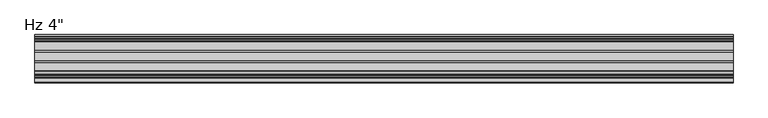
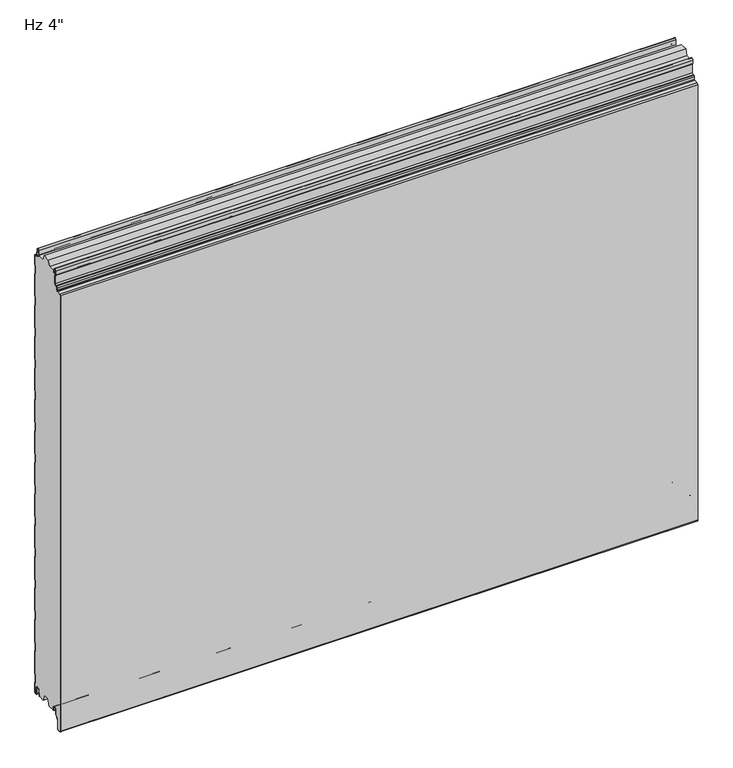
"""IFC4 building model written with IfcOpenShell, lengths in millimetres: plate geometry."""

from ifc_helpers import new_model, si_unit, point, frame, frame_2d, origin, place, context, project, spatial, polyline, circle_curve, trimmed, segment, composite_curve, outline, extrude, source, transform, mapped, element, save


def plate_0a17265c(model_context):
    return source(origin(), model_context, "Body", "SweptSolid", [
        extrude(outline(composite_curve([segment(trimmed(circle_curve(frame_2d((-76.8545168, 7.3245305)), 3.3499999), [point((-73.5045169, 7.3245305))], [point((-76.8545168, 10.6745305))], True, "CARTESIAN"), True, "CONTINUOUS"), segment(polyline([(-76.8545168, 10.6745305), (-81.2545166, 10.6745305)]), True, "CONTINUOUS"), segment(trimmed(circle_curve(frame_2d((-81.2545166, 7.3245305)), 3.3499999), [point((-81.2545166, 10.6745305))], [point((-84.6045165, 7.3245305))], True, "CARTESIAN"), True, "CONTINUOUS"), segment(polyline([(-84.6045165, 7.3245305), (-84.6045165, -4.4863817)]), True, "CONTINUOUS"), segment(trimmed(circle_curve(frame_2d((-86.3045165, -4.4863817)), 1.7), [point((-84.6045165, -4.4863817))], [point((-85.102435, -5.6884632))], False, "CARTESIAN"), True, "CONTINUOUS"), segment(polyline([(-85.102435, -5.6884632), (-89.8429939, -10.4290221)]), True, "CONTINUOUS"), segment(trimmed(circle_curve(frame_2d((-88.0045163, -12.2674998)), 2.6), [point((-89.8429939, -10.4290221))], [point((-90.6045163, -12.2674998))], True, "CARTESIAN"), True, "CONTINUOUS"), segment(polyline([(-90.6045163, -12.2674998), (-90.6045163, -33.274257)]), True, "CONTINUOUS"), segment(trimmed(circle_curve(frame_2d((-93.3045163, -33.274257)), 2.7), [point((-90.6045163, -33.274257))], [point((-93.0689835, -35.9639641))], False, "CARTESIAN"), True, "CONTINUOUS"), segment(polyline([(-93.0689835, -35.9639641), (-97.8159721, -36.3796493)]), True, "CONTINUOUS"), segment(trimmed(circle_curve(frame_2d((-98.0393488, -33.8287598)), 2.5606512), [point((-97.8159721, -36.3796493))], [point((-100.6, -33.8287598))], False, "CARTESIAN"), True, "CONTINUOUS"), segment(polyline([(-100.6, -33.8287598), (-100.6, 1021.0519049)]), True, "CONTINUOUS"), segment(trimmed(circle_curve(frame_2d((-98.7102824, 1021.0519049)), 1.8897176), [point((-100.6, 1021.0519049))], [point((-98.8750281, 1022.9344276))], False, "CARTESIAN"), True, "CONTINUOUS"), segment(polyline([(-98.8750281, 1022.9344276), (-90.3438082, 1023.6810226)]), True, "CONTINUOUS"), segment(trimmed(circle_curve(frame_2d((-90.6077531, 1026.6970773)), 3.027582), [point((-90.3438082, 1023.6810226))], [point((-88.7647769, 1024.2950591))], True, "CARTESIAN"), True, "CONTINUOUS"), segment(trimmed(circle_curve(frame_2d((-90.5909631, 1026.6751943)), 3.0), [point((-88.7647769, 1024.2950591))], [point((-87.5909787, 1026.6848525))], True, "CARTESIAN"), True, "CONTINUOUS"), segment(polyline([(-87.5909787, 1026.6848525), (-87.5909787, 1032.044966)]), True, "CONTINUOUS"), segment(trimmed(circle_curve(frame_2d((-85.7909787, 1032.044966)), 1.8), [point((-87.5909787, 1032.044966))], [point((-85.7909787, 1033.844966))], False, "CARTESIAN"), True, "CONTINUOUS"), segment(polyline([(-85.7909787, 1033.844966), (-83.500418, 1033.844966)]), True, "CONTINUOUS"), segment(trimmed(circle_curve(frame_2d((-83.500418, 1037.844966)), 4.0), [point((-83.500418, 1033.844966))], [point((-79.500418, 1037.844966))], True, "CARTESIAN"), True, "CONTINUOUS"), segment(polyline([(-79.500418, 1037.844966), (-79.500418, 1057.3824408)]), True, "CONTINUOUS"), segment(trimmed(circle_curve(frame_2d((-82.100418, 1057.3824408)), 2.6), [point((-79.500418, 1057.3824408))], [point((-80.3919416, 1059.3423154))], True, "CARTESIAN"), True, "CONTINUOUS"), segment(polyline([(-80.3919416, 1059.3423154), (-81.4769402, 1060.2881384), (-81.1263694, 1069.143097)]), True, "CONTINUOUS"), segment(trimmed(circle_curve(frame_2d((-79.0261346, 1069.059948)), 2.10188), [point((-81.1263694, 1069.143097))], [point((-76.9257796, 1069.1400009))], False, "CARTESIAN"), True, "CONTINUOUS"), segment(polyline([(-76.9257796, 1069.1400009), (-76.4370324, 1061.1295249), (-75.4388885, 1061.1904252), (-75.7157133, 1065.7275311), (-58.8948412, 1065.7275311), (-53.7615374, 1078.9274638), (-37.6469837, 1078.9274638), (-32.5136753, 1065.7275311), (-15.2947081, 1065.7275311), (-15.4069152, 1064.1283001), (-14.4093676, 1064.058309), (-13.4643757, 1077.5268011)]), True, "CONTINUOUS"), segment(trimmed(circle_curve(frame_2d((-11.7334815, 1077.4116442)), 1.7347206), [point((-13.4643757, 1077.5268011))], [point((-10.0073134, 1077.5836892))], False, "CARTESIAN"), True, "CONTINUOUS"), segment(polyline([(-10.0073134, 1077.5836892), (-8.4976379, 1063.0309438)]), True, "CONTINUOUS"), segment(trimmed(circle_curve(frame_2d((-4.0912842, 1063.4880509)), 4.43), [point((-8.4976379, 1063.0309438))], [point((-4.0912842, 1059.0580509))], True, "CARTESIAN"), True, "CONTINUOUS"), segment(polyline([(-4.0912842, 1059.0580509), (-2.3999791, 1059.0580509)]), True, "CONTINUOUS"), segment(trimmed(circle_curve(frame_2d((-2.3999791, 1057.6580509)), 1.4), [point((-2.3999791, 1059.0580509))], [point((-0.9999791, 1057.6580509))], False, "CARTESIAN"), True, "CONTINUOUS"), segment(polyline([(-0.9999791, 1057.6580509), (-0.9999791, 1034.7726138), (-2.2002307, 1033.5723621), (-2.2002307, 1013.9369024), (-1.0, 1012.7366717), (-1.0, 958.5891837), (-2.2002307, 957.3889529), (-2.2002307, 937.7534932), (-1.0, 936.5532625), (-1.0, 882.4057744), (-2.2002307, 881.2055437), (-2.2002307, 861.570084), (-1.0, 860.3698532), (-1.0, 806.2223652), (-2.2002307, 805.0221345), (-2.2002307, 785.3866748), (-1.0, 784.186444), (-1.0, 730.0225176), (-2.2002307, 728.8222869), (-2.2002307, 709.1868272), (-1.0, 707.9865964), (-1.0, 653.8391084), (-2.2002307, 652.6388777), (-2.2002307, 633.0034179), (-1.0, 631.8031872), (-1.0, 577.6556992), (-2.2002307, 576.4554684), (-2.2002307, 556.8200087), (-1.0, 555.619778), (-1.0, 501.4558516), (-2.2002307, 500.2556208), (-2.2002307, 480.6201611), (-1.0, 479.4199304), (-1.0, 425.2724424), (-2.2002307, 424.0722116), (-2.2002307, 404.4367519), (-1.0, 403.2365211), (-1.0, 349.0890331), (-2.2002307, 347.8888024), (-2.2002307, 328.2533427), (-1.0, 327.0531119), (-1.0, 272.8891855), (-2.2002307, 271.6889548), (-2.2002307, 252.0534951), (-1.0, 250.8532643), (-1.0, 196.7057763), (-2.2002307, 195.5055456), (-2.2002307, 175.8700858), (-1.0, 174.6698551), (-1.0, 120.5223671), (-2.2002307, 119.3221364), (-2.2002307, 99.6866766), (-1.0, 98.4864459), (-1.0, 44.3225195), (-2.2002307, 43.1222888), (-2.2002307, 23.486829), (-1.0000103, 22.2866086), (-1.0000103, -0.3839769)]), True, "CONTINUOUS"), segment(trimmed(circle_curve(frame_2d((-2.3984828, -0.4487243)), 1.3999705), [point((-1.0000103, -0.3839769))], [point((-2.3984828, -1.8486949))], False, "CARTESIAN"), True, "CONTINUOUS"), segment(polyline([(-2.3984828, -1.8486949), (-3.9515996, -1.8486949)]), True, "CONTINUOUS"), segment(trimmed(circle_curve(frame_2d((-3.9515996, 0.3613604)), 2.2100553), [point((-3.9515996, -1.8486949))], [point((-6.1616549, 0.3613604))], False, "CARTESIAN"), True, "CONTINUOUS"), segment(polyline([(-6.1616549, 0.3613604), (-6.1616549, 13.8905885)]), True, "CONTINUOUS"), segment(trimmed(circle_curve(frame_2d((-9.881641, 13.8905885)), 3.7199861), [point((-6.1616549, 13.8905885))], [point((-9.881641, 17.6105746))], True, "CARTESIAN"), True, "CONTINUOUS"), segment(polyline([(-9.881641, 17.6105746), (-13.5282389, 17.6105746)]), True, "CONTINUOUS"), segment(trimmed(circle_curve(frame_2d((-13.5282389, 13.8905782)), 3.7199964), [point((-13.5282389, 17.6105746))], [point((-17.2482353, 13.8905782))], True, "CARTESIAN"), True, "CONTINUOUS"), segment(polyline([(-17.2482353, 13.8905782), (-17.2482353, 7.5454603), (-18.1704184, 7.7080661), (-19.2730843, 1.454537)]), True, "CONTINUOUS"), segment(trimmed(circle_curve(frame_2d((-17.7722363, 1.189897)), 1.524001), [point((-19.2730843, 1.454537))], [point((-18.7244571, 0.0))], True, "CARTESIAN"), True, "CONTINUOUS"), segment(polyline([(-18.7244571, 0.0), (-33.5050578, 0.0), (-39.1301019, 14.9979533), (-51.7686066, 14.9979533), (-57.3928342, 0.0), (-72.4748213, 0.0)]), True, "CONTINUOUS"), segment(trimmed(circle_curve(frame_2d((-73.3060323, 0.8654988)), 1.2), [point((-72.4748213, 0.0))], [point((-72.1060333, 0.8670134))], True, "CARTESIAN"), True, "CONTINUOUS"), segment(polyline([(-72.1060333, 0.8670134), (-72.1060333, 4.6254142), (-73.5045169, 4.6254142), (-73.5045169, 7.3245305)]), True, "CONTINUOUS")], self_intersect=False)), frame((-730.0, 0.0, 0.0), z_axis=(1.0, 0.0, 0.0), x_axis=(0.0, 1.0, 0.0)), (0.0, 0.0, 1.0), 1460.0),
        extrude(outline(composite_curve([segment(trimmed(circle_curve(frame_2d((-2.3984828, -0.4487243)), 2.3999705), [point((-1.03e-05, -0.3639402))], [point((-2.3984828, -2.8486949))], False, "CARTESIAN"), True, "CONTINUOUS"), segment(polyline([(-2.3984828, -2.8486949), (-3.9515996, -2.8486949)]), True, "CONTINUOUS"), segment(trimmed(circle_curve(frame_2d((-3.9515996, 0.3613604)), 3.2100553), [point((-3.9515996, -2.8486949))], [point((-7.1616549, 0.3613604))], False, "CARTESIAN"), True, "CONTINUOUS"), segment(polyline([(-7.1616549, 0.3613604), (-7.1616549, 13.8905885)]), True, "CONTINUOUS"), segment(trimmed(circle_curve(frame_2d((-9.881641, 13.8905885)), 2.7199861), [point((-7.1616549, 13.8905885))], [point((-9.881641, 16.6105746))], True, "CARTESIAN"), True, "CONTINUOUS"), segment(polyline([(-9.881641, 16.6105746), (-13.5282389, 16.6105746)]), True, "CONTINUOUS"), segment(trimmed(circle_curve(frame_2d((-13.5282389, 13.8905782)), 2.7199964), [point((-13.5282389, 16.6105746))], [point((-16.2482353, 13.8905782))], True, "CARTESIAN"), True, "CONTINUOUS"), segment(polyline([(-16.2482353, 13.8905782), (-16.2482353, 1.189897)]), True, "CONTINUOUS"), segment(trimmed(circle_curve(frame_2d((-17.7722363, 1.189897)), 1.524001), [point((-16.2482353, 1.189897))], [point((-19.2730843, 1.454537))], False, "CARTESIAN"), True, "CONTINUOUS"), segment(polyline([(-19.2730843, 1.454537), (-18.1704184, 7.7080661), (-17.2482353, 7.5454603), (-17.2482353, 13.8905782)]), True, "CONTINUOUS"), segment(trimmed(circle_curve(frame_2d((-13.5282389, 13.8905782)), 3.7199964), [point((-17.2482353, 13.8905782))], [point((-13.5282389, 17.6105746))], False, "CARTESIAN"), True, "CONTINUOUS"), segment(polyline([(-13.5282389, 17.6105746), (-9.881641, 17.6105746)]), True, "CONTINUOUS"), segment(trimmed(circle_curve(frame_2d((-9.881641, 13.8905885)), 3.7199861), [point((-9.881641, 17.6105746))], [point((-6.1616549, 13.8905885))], False, "CARTESIAN"), True, "CONTINUOUS"), segment(polyline([(-6.1616549, 13.8905885), (-6.1616549, 0.3613604)]), True, "CONTINUOUS"), segment(trimmed(circle_curve(frame_2d((-3.9515996, 0.3613604)), 2.2100553), [point((-6.1616549, 0.3613604))], [point((-3.9515996, -1.8486949))], True, "CARTESIAN"), True, "CONTINUOUS"), segment(polyline([(-3.9515996, -1.8486949), (-2.3984828, -1.8486949)]), True, "CONTINUOUS"), segment(trimmed(circle_curve(frame_2d((-2.3984828, -0.4487243)), 1.3999705), [point((-2.3984828, -1.8486949))], [point((-1.0000103, -0.3839769))], True, "CARTESIAN"), True, "CONTINUOUS"), segment(polyline([(-1.0000103, -0.3839769), (-1.0000103, 22.2866086), (-2.2002307, 23.486829), (-2.2002307, 43.1222888), (-1.0, 44.3225195), (-1.0, 98.4864459), (-2.2002307, 99.6866766), (-2.2002307, 119.3221364), (-1.0, 120.5223671), (-1.0, 174.6698551), (-2.2002307, 175.8700858), (-2.2002307, 195.5055456), (-1.0, 196.7057763), (-1.0, 250.8532643), (-2.2002307, 252.0534951), (-2.2002307, 271.6889548), (-1.0, 272.8891855), (-1.0, 327.0531119), (-2.2002307, 328.2533427), (-2.2002307, 347.8888024), (-1.0, 349.0890331), (-1.0, 403.2365211), (-2.2002307, 404.4367519), (-2.2002307, 424.0722116), (-1.0, 425.2724424), (-1.0, 479.4199304), (-2.2002307, 480.6201611), (-2.2002307, 500.2556208), (-1.0, 501.4558516), (-1.0, 555.619778), (-2.2002307, 556.8200087), (-2.2002307, 576.4554684), (-1.0, 577.6556992), (-1.0, 631.8031872), (-2.2002307, 633.0034179), (-2.2002307, 652.6388777), (-1.0, 653.8391084), (-1.0, 707.9865964), (-2.2002307, 709.1868272), (-2.2002307, 728.8222869), (-1.0, 730.0225176), (-1.0, 784.186444), (-2.2002307, 785.3866748), (-2.2002307, 805.0221345), (-1.0, 806.2223652), (-1.0, 860.3698532), (-2.2002307, 861.570084), (-2.2002307, 881.2055437), (-1.0, 882.4057744), (-1.0, 936.5532625), (-2.2002307, 937.7534932), (-2.2002307, 957.3889529), (-1.0, 958.5891837), (-1.0, 1012.7366717), (-2.2002307, 1013.9369024), (-2.2002307, 1033.5723621), (-0.9999791, 1034.7726138), (-0.9999791, 1057.6580509)]), True, "CONTINUOUS"), segment(trimmed(circle_curve(frame_2d((-2.3999791, 1057.6580509)), 1.4), [point((-0.9999791, 1057.6580509))], [point((-2.3999791, 1059.0580509))], True, "CARTESIAN"), True, "CONTINUOUS"), segment(polyline([(-2.3999791, 1059.0580509), (-4.0912842, 1059.0580509)]), True, "CONTINUOUS"), segment(trimmed(circle_curve(frame_2d((-4.0912842, 1063.4880509)), 4.43), [point((-4.0912842, 1059.0580509))], [point((-8.4976379, 1063.0309438))], False, "CARTESIAN"), True, "CONTINUOUS"), segment(polyline([(-8.4976379, 1063.0309438), (-10.0073134, 1077.5836892)]), True, "CONTINUOUS"), segment(trimmed(circle_curve(frame_2d((-11.7334815, 1077.4116442)), 1.7347206), [point((-10.0073134, 1077.5836892))], [point((-13.4643757, 1077.5268011))], True, "CARTESIAN"), True, "CONTINUOUS"), segment(polyline([(-13.4643757, 1077.5268011), (-14.4093676, 1064.058309), (-15.4069152, 1064.1283001), (-14.4620355, 1077.5951929)]), True, "CONTINUOUS"), segment(trimmed(circle_curve(frame_2d((-11.7334815, 1077.4116442)), 2.7347206), [point((-14.4620355, 1077.5951929))], [point((-9.0124669, 1077.6850974))], False, "CARTESIAN"), True, "CONTINUOUS"), segment(polyline([(-9.0124669, 1077.6850974), (-7.5029757, 1063.1341282)]), True, "CONTINUOUS"), segment(trimmed(circle_curve(frame_2d((-4.0912842, 1063.4880509)), 3.43), [point((-7.5029757, 1063.1341282))], [point((-4.0912842, 1060.0580509))], True, "CARTESIAN"), True, "CONTINUOUS"), segment(polyline([(-4.0912842, 1060.0580509), (-2.3999791, 1060.0580509)]), True, "CONTINUOUS"), segment(trimmed(circle_curve(frame_2d((-2.3999791, 1057.6580509)), 2.4), [point((-2.3999791, 1060.0580509))], [point((2.09e-05, 1057.6580509))], False, "CARTESIAN"), True, "CONTINUOUS"), segment(polyline([(2.09e-05, 1057.6580509), (2.09e-05, 1034.3584002), (-1.2002307, 1033.1581486), (-1.2002307, 1014.351116), (0.0, 1013.1508852), (0.0, 958.1749701), (-1.2002307, 956.9747394), (-1.2002307, 938.1677068), (0.0, 936.967476), (0.0, 881.9915609), (-1.2002307, 880.7913301), (-1.2002307, 861.9842975), (0.0, 860.7840668), (0.0, 805.8081517), (-1.2002307, 804.6079209), (-1.2002307, 785.8008883), (0.0, 784.6006576), (0.0, 729.6083041), (-1.2002307, 728.4080733), (-1.2002307, 709.6010407), (0.0, 708.40081), (0.0, 653.4248948), (-1.2002307, 652.2246641), (-1.2002307, 633.4176315), (0.0, 632.2174008), (0.0, 577.2414856), (-1.2002307, 576.0412549), (-1.2002307, 557.2342223), (0.0, 556.0339915), (0.0, 501.041638), (-1.2002307, 499.8414073), (-1.2002307, 481.0343747), (0.0, 479.8341439), (0.0, 424.8582288), (-1.2002307, 423.6579981), (-1.2002307, 404.8509654), (0.0, 403.6507347), (0.0, 348.6748196), (-1.2002307, 347.4745888), (-1.2002307, 328.6675562), (0.0, 327.4673255), (0.0, 272.474972), (-1.2002307, 271.2747412), (-1.2002307, 252.4677086), (0.0, 251.2674779), (0.0, 196.2915628), (-1.2002307, 195.091332), (-1.2002307, 176.2842994), (0.0, 175.0840687), (0.0, 120.1081535), (-1.2002307, 118.9079228), (-1.2002307, 100.1008902), (0.0, 98.9006594), (0.0, 43.9083059), (-1.2002307, 42.7080752), (-1.2002307, 23.9010426), (-1.03e-05, 22.7008222), (-1.03e-05, -0.3639402)]), True, "CONTINUOUS")], self_intersect=False)), frame((-730.0, 0.0, 0.0), z_axis=(1.0, 0.0, 0.0), x_axis=(0.0, 1.0, 0.0)), (0.0, 0.0, 1.0), 1460.0),
        extrude(outline(composite_curve([segment(trimmed(circle_curve(frame_2d((-73.3060323, 0.8654988)), 1.2), [point((-72.1060333, 0.8670134))], [point((-74.5045169, 0.8052116))], False, "CARTESIAN"), True, "CONTINUOUS"), segment(polyline([(-74.5045169, 0.8052116), (-74.5045169, 7.3245305)]), True, "CONTINUOUS"), segment(trimmed(circle_curve(frame_2d((-76.8545168, 7.3245305)), 2.3499999), [point((-74.5045169, 7.3245305))], [point((-76.8545168, 9.6745305))], True, "CARTESIAN"), True, "CONTINUOUS"), segment(polyline([(-76.8545168, 9.6745305), (-81.2545166, 9.6745305)]), True, "CONTINUOUS"), segment(trimmed(circle_curve(frame_2d((-81.2545166, 7.3245305)), 2.3499999), [point((-81.2545166, 9.6745305))], [point((-83.6045165, 7.3245305))], True, "CARTESIAN"), True, "CONTINUOUS"), segment(polyline([(-83.6045165, 7.3245305), (-83.6045165, -4.4863817)]), True, "CONTINUOUS"), segment(trimmed(circle_curve(frame_2d((-86.3045165, -4.4863817)), 2.7), [point((-83.6045165, -4.4863817))], [point((-84.3953282, -6.39557))], False, "CARTESIAN"), True, "CONTINUOUS"), segment(polyline([(-84.3953282, -6.39557), (-89.1358871, -11.1361289)]), True, "CONTINUOUS"), segment(trimmed(circle_curve(frame_2d((-88.0045163, -12.2674998)), 1.6), [point((-89.1358871, -11.1361289))], [point((-89.6045163, -12.2674998))], True, "CARTESIAN"), True, "CONTINUOUS"), segment(polyline([(-89.6045163, -12.2674998), (-89.6045163, -33.274257)]), True, "CONTINUOUS"), segment(trimmed(circle_curve(frame_2d((-93.3045163, -33.274257)), 3.7), [point((-89.6045163, -33.274257))], [point((-92.9817491, -36.960152))], False, "CARTESIAN"), True, "CONTINUOUS"), segment(polyline([(-92.9817491, -36.960152), (-97.7287377, -37.3758371)]), True, "CONTINUOUS"), segment(trimmed(circle_curve(frame_2d((-98.0393488, -33.8287598)), 3.5606512), [point((-97.7287377, -37.3758371))], [point((-101.6, -33.8287598))], False, "CARTESIAN"), True, "CONTINUOUS"), segment(polyline([(-101.6, -33.8287598), (-101.6, 1021.0519049)]), True, "CONTINUOUS"), segment(trimmed(circle_curve(frame_2d((-98.7102824, 1021.0519049)), 2.8897176), [point((-101.6, 1021.0519049))], [point((-98.9622082, 1023.9306201))], False, "CARTESIAN"), True, "CONTINUOUS"), segment(polyline([(-98.9622082, 1023.9306201), (-90.4309883, 1024.6772152)]), True, "CONTINUOUS"), segment(trimmed(circle_curve(frame_2d((-90.6077531, 1026.6970773)), 2.027582), [point((-90.4309883, 1024.6772152))], [point((-89.3735057, 1025.0884375))], True, "CARTESIAN"), True, "CONTINUOUS"), segment(trimmed(circle_curve(frame_2d((-90.5909631, 1026.6751943)), 2.0), [point((-89.3735057, 1025.0884375))], [point((-88.5909787, 1026.6830802))], True, "CARTESIAN"), True, "CONTINUOUS"), segment(polyline([(-88.5909787, 1026.6830802), (-88.5909787, 1032.044966)]), True, "CONTINUOUS"), segment(trimmed(circle_curve(frame_2d((-85.7909787, 1032.044966)), 2.8), [point((-88.5909787, 1032.044966))], [point((-85.7909787, 1034.844966))], False, "CARTESIAN"), True, "CONTINUOUS"), segment(polyline([(-85.7909787, 1034.844966), (-83.500418, 1034.844966)]), True, "CONTINUOUS"), segment(trimmed(circle_curve(frame_2d((-83.500418, 1037.844966)), 3.0), [point((-83.500418, 1034.844966))], [point((-80.500418, 1037.844966))], True, "CARTESIAN"), True, "CONTINUOUS"), segment(polyline([(-80.500418, 1037.844966), (-80.500418, 1057.3824408)]), True, "CONTINUOUS"), segment(trimmed(circle_curve(frame_2d((-82.100418, 1057.3824408)), 1.6), [point((-80.500418, 1057.3824408))], [point((-81.0490479, 1058.5885175))], True, "CARTESIAN"), True, "CONTINUOUS"), segment(polyline([(-81.0490479, 1058.5885175), (-82.4951059, 1059.8490858), (-82.1255866, 1069.1826564)]), True, "CONTINUOUS"), segment(trimmed(circle_curve(frame_2d((-79.0261346, 1069.059948)), 3.10188), [point((-82.1255866, 1069.1826564))], [point((-75.9270077, 1069.1906064))], False, "CARTESIAN"), True, "CONTINUOUS"), segment(polyline([(-75.9270077, 1069.1906064), (-75.4388885, 1061.1904252), (-76.4370324, 1061.1295249), (-76.9257796, 1069.1400009)]), True, "CONTINUOUS"), segment(trimmed(circle_curve(frame_2d((-79.0261346, 1069.059948)), 2.10188), [point((-76.9257796, 1069.1400009))], [point((-81.1263694, 1069.143097))], True, "CARTESIAN"), True, "CONTINUOUS"), segment(polyline([(-81.1263694, 1069.143097), (-81.4769402, 1060.2881384), (-80.3919416, 1059.3423154)]), True, "CONTINUOUS"), segment(trimmed(circle_curve(frame_2d((-82.100418, 1057.3824408)), 2.6), [point((-80.3919416, 1059.3423154))], [point((-79.500418, 1057.3824408))], False, "CARTESIAN"), True, "CONTINUOUS"), segment(polyline([(-79.500418, 1057.3824408), (-79.500418, 1037.844966)]), True, "CONTINUOUS"), segment(trimmed(circle_curve(frame_2d((-83.500418, 1037.844966)), 4.0), [point((-79.500418, 1037.844966))], [point((-83.500418, 1033.844966))], False, "CARTESIAN"), True, "CONTINUOUS"), segment(polyline([(-83.500418, 1033.844966), (-85.7909787, 1033.844966)]), True, "CONTINUOUS"), segment(trimmed(circle_curve(frame_2d((-85.7909787, 1032.044966)), 1.8), [point((-85.7909787, 1033.844966))], [point((-87.5909787, 1032.044966))], True, "CARTESIAN"), True, "CONTINUOUS"), segment(polyline([(-87.5909787, 1032.044966), (-87.5909787, 1026.6848525)]), True, "CONTINUOUS"), segment(trimmed(circle_curve(frame_2d((-90.5909631, 1026.6751943)), 3.0), [point((-87.5909787, 1026.6848525))], [point((-88.7647769, 1024.2950591))], False, "CARTESIAN"), True, "CONTINUOUS"), segment(trimmed(circle_curve(frame_2d((-90.6077531, 1026.6970773)), 3.027582), [point((-88.7647769, 1024.2950591))], [point((-90.3438082, 1023.6810226))], False, "CARTESIAN"), True, "CONTINUOUS"), segment(polyline([(-90.3438082, 1023.6810226), (-98.8750281, 1022.9344276)]), True, "CONTINUOUS"), segment(trimmed(circle_curve(frame_2d((-98.7102824, 1021.0519049)), 1.8897176), [point((-98.8750281, 1022.9344276))], [point((-100.6, 1021.0519049))], True, "CARTESIAN"), True, "CONTINUOUS"), segment(polyline([(-100.6, 1021.0519049), (-100.6, -33.8287598)]), True, "CONTINUOUS"), segment(trimmed(circle_curve(frame_2d((-98.0393488, -33.8287598)), 2.5606512), [point((-100.6, -33.8287598))], [point((-97.8159721, -36.3796493))], True, "CARTESIAN"), True, "CONTINUOUS"), segment(polyline([(-97.8159721, -36.3796493), (-93.0689835, -35.9639641)]), True, "CONTINUOUS"), segment(trimmed(circle_curve(frame_2d((-93.3045163, -33.274257)), 2.7), [point((-93.0689835, -35.9639641))], [point((-90.6045163, -33.274257))], True, "CARTESIAN"), True, "CONTINUOUS"), segment(polyline([(-90.6045163, -33.274257), (-90.6045163, -12.2674998)]), True, "CONTINUOUS"), segment(trimmed(circle_curve(frame_2d((-88.0045163, -12.2674998)), 2.6), [point((-90.6045163, -12.2674998))], [point((-89.8429939, -10.4290221))], False, "CARTESIAN"), True, "CONTINUOUS"), segment(polyline([(-89.8429939, -10.4290221), (-85.102435, -5.6884632)]), True, "CONTINUOUS"), segment(trimmed(circle_curve(frame_2d((-86.3045165, -4.4863817)), 1.7), [point((-85.102435, -5.6884632))], [point((-84.6045165, -4.4863817))], True, "CARTESIAN"), True, "CONTINUOUS"), segment(polyline([(-84.6045165, -4.4863817), (-84.6045165, 7.3245305)]), True, "CONTINUOUS"), segment(trimmed(circle_curve(frame_2d((-81.2545166, 7.3245305)), 3.3499999), [point((-84.6045165, 7.3245305))], [point((-81.2545166, 10.6745305))], False, "CARTESIAN"), True, "CONTINUOUS"), segment(polyline([(-81.2545166, 10.6745305), (-76.8545168, 10.6745305)]), True, "CONTINUOUS"), segment(trimmed(circle_curve(frame_2d((-76.8545168, 7.3245305)), 3.3499999), [point((-76.8545168, 10.6745305))], [point((-73.5045169, 7.3245305))], False, "CARTESIAN"), True, "CONTINUOUS"), segment(polyline([(-73.5045169, 7.3245305), (-73.5045169, 4.6254142), (-72.1060333, 4.6254142), (-72.1060333, 0.8670134)]), True, "CONTINUOUS")], self_intersect=False)), frame((-730.0, 0.0, 0.0), z_axis=(1.0, 0.0, 0.0), x_axis=(0.0, 1.0, 0.0)), (0.0, 0.0, 1.0), 1460.0),
    ])


if __name__ == "__main__":
    model = new_model("IFC4")
    model_context = context("Model", 3, world=origin())
    ifc_project = project(units=[si_unit("LENGTHUNIT", "METRE", prefix="MILLI")], contexts=[model_context])
    site = spatial("IfcSite", under=ifc_project)
    building = spatial("IfcBuilding", under=site)
    placement = place(None, origin())
    plate_shape = plate_0a17265c(model_context)
    element("IfcPlate", 1, ObjectType="KIP-42-KRHF-R19-CP-Hz-FL_SL : Hz 4\"", at=placement, inside=building, context=model_context, shape_type="MappedRepresentation", body=[
        mapped(plate_shape, transform((0.0, 0.0, 0.0), x_axis=(1.0, 0.0, 0.0), y_axis=(0.0, 1.0, 0.0), z_axis=(0.0, 0.0, 1.0))),
    ])
    save(model, "model.ifc")
